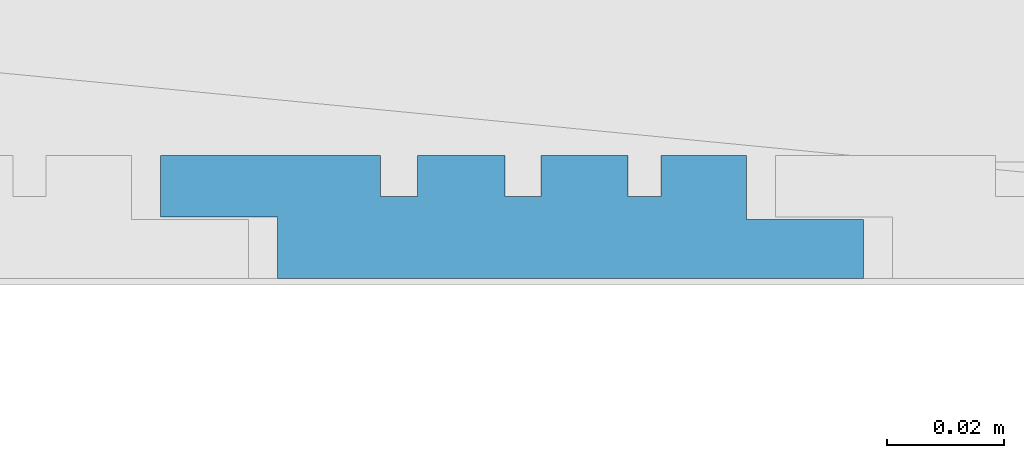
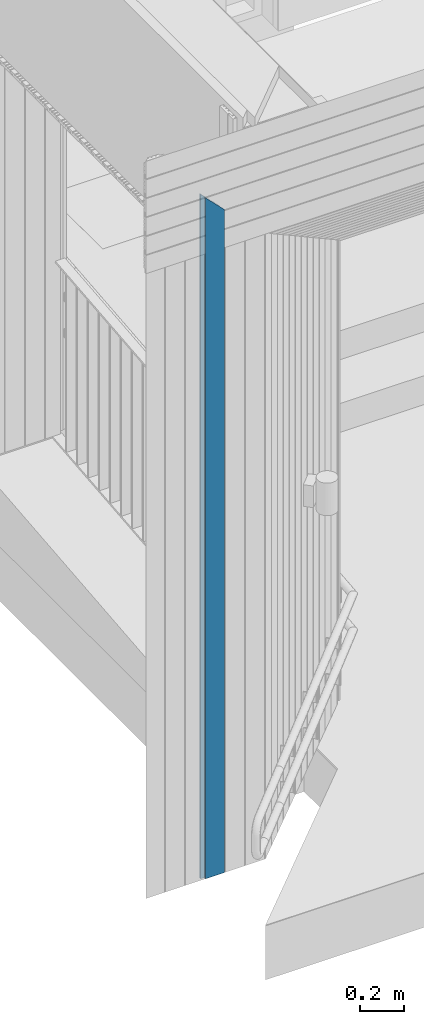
# One storey, part 99 of 418: 1 building element part, 1 element without a shape of its own.
"""IFC2X3 building model written with IfcOpenShell, lengths in millimetres."""

from ifc_helpers import new_model, entity, si_unit, converted_unit, derived_unit, money_unit, direction, frame, origin_with_axes, place, context, subcontext, project, spatial, polyline, outline, extrude, boolean, faceted_brep, material, type_object, element, aggregate, save


model = new_model("IFC2X3")

# Units and contexts
model_context = context("Model", 3, precision=0.01, world=origin_with_axes(), true_north=direction((0.0, 1.0)))
body_context = subcontext(model_context, "Body", "Model", "MODEL_VIEW")
ifc_project = project(units=[si_unit("LENGTHUNIT", "METRE", prefix="MILLI"), si_unit("AREAUNIT", "SQUARE_METRE"), si_unit("VOLUMEUNIT", "CUBIC_METRE"), converted_unit("PLANEANGLEUNIT", "DEGREE", entity("IfcPlaneAngleMeasure", 0.0174532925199), si_unit("PLANEANGLEUNIT", "RADIAN"), dimensions=[0, 0, 0, 0, 0, 0, 0]), si_unit("SOLIDANGLEUNIT", "STERADIAN"), money_unit("EUR"), converted_unit("TIMEUNIT", "Year", entity("IfcTimeMeasure", 31556926.0), si_unit("TIMEUNIT", "SECOND"), dimensions=[0, 0, 1, 0, 0, 0, 0]), si_unit("MASSUNIT", "GRAM", prefix="KILO"), si_unit("THERMODYNAMICTEMPERATUREUNIT", "DEGREE_CELSIUS"), si_unit("LUMINOUSINTENSITYUNIT", "LUMEN"), si_unit("ENERGYUNIT", "JOULE", prefix="MEGA"), derived_unit("THERMALCONDUCTANCEUNIT", [(si_unit("POWERUNIT", "WATT"), 1), (si_unit("LENGTHUNIT", "METRE"), -1), (si_unit("THERMODYNAMICTEMPERATUREUNIT", "KELVIN"), -1)]), derived_unit("SPECIFICHEATCAPACITYUNIT", [(si_unit("ENERGYUNIT", "JOULE"), 1), (si_unit("MASSUNIT", "GRAM", prefix="KILO"), -1), (si_unit("THERMODYNAMICTEMPERATUREUNIT", "KELVIN"), -1)]), derived_unit("MASSDENSITYUNIT", [(si_unit("MASSUNIT", "GRAM", prefix="KILO"), 1), (si_unit("VOLUMEUNIT", "CUBIC_METRE"), -1)])], contexts=[model_context])

# Site, building, storey
site_placement = place(None, origin_with_axes())
site = spatial("IfcSite", under=ifc_project, at=site_placement, Name="Paldiski mnt 245/1, Tallinn, Harjumaa", CompositionType="COMPLEX")
building_placement = place(site_placement, origin_with_axes())
building = spatial("IfcBuilding", under=site, at=building_placement, Name="RKAS Hoone üldnimetus (kasutust iseloomustav) -> IFC Project Manager -> SOLIBRI", CompositionType="ELEMENT")
storey_placement = place(building_placement, origin_with_axes())
storey = spatial("IfcBuildingStorey", under=building, at=storey_placement, Name="Esimene korrus", CompositionType="ELEMENT", Elevation=0.0)

# Proxy, building element part
building_element_proxy_type = type_object("IfcBuildingElementProxyType", Name="Laudis esiprofiil_01 21 x 622", PredefinedType="NOTDEFINED")
proxy_placement = place(storey_placement, frame((-45641.4622152, -18705.5141429, 0.0), z_axis=(0.0, 0.0, 1.0), x_axis=(0.0, 1.0, 0.0)))
proxy = element("IfcBuildingElementProxy", 1, at=proxy_placement, inside=storey, type_object=building_element_proxy_type, Name="Varikatus")
ifc_material = material(Name="Laudis 5072 Honka 45 horisontaalne raastas")
building_element_part_placement = place(proxy_placement, origin_with_axes())
building_element_part = element("IfcBuildingElementPart", 2, at=building_element_part_placement, material=ifc_material, Name="Laudis 5072 Honka 45 horisontaalne raastas", context=body_context, shape_type="CSG", body=[
    boolean("DIFFERENCE", boolean("DIFFERENCE", boolean("DIFFERENCE", boolean("DIFFERENCE", boolean("DIFFERENCE", boolean("DIFFERENCE", extrude(outline(polyline([(3.20348192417e-08, -310.971430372), (-10.5000010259, -310.971430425), (-10.5000005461, -290.971429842), (-20.9999998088, -290.971430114), (-21.0000010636, -328.497524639), (-14.0000005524, -328.497525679), (-14.0000003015, -334.860022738), (-20.99999981, -334.860022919), (-20.9999998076, -349.79914009), (-14.0000002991, -349.799139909), (-14.0000007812, -355.926080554), (-21.0000002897, -355.926080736), (-21.0000013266, -370.754573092), (-14.0000008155, -370.754574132), (-14.0000015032, -376.395242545), (-21.0000010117, -376.395242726), (-21.0000007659, -390.971429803), (-10.000001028, -390.971430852), (-10.0000002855, -410.971430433), (-7.63172636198e-07, -410.971430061), (3.20348192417e-08, -310.971430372)])), frame((0.0, 0.0, 0.0), z_axis=(0.0, 0.0, -1.0), x_axis=(-1.0, 0.0, 0.0)), (0.0, 0.0, -1.0), 4086.15997799), faceted_brep([(7.63172636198e-07, -515.971430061, 3569.02857112), (10.0000002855, -515.971430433, 3569.02857075), (10.0000002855, -515.971430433, 4086.15997799), (7.63172636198e-07, -515.971430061, 4086.15997799), (10.000001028, -495.971430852, 3589.02857033), (-3.20348192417e-08, -415.971430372, 3669.02857081), (10.5000010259, -415.971430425, 3669.02857076), (10.5000005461, -395.971429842, 3689.02857134), (20.9999998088, -395.971430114, 3689.02857107), (21.0000010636, -433.497524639, 3651.50247655), (14.0000005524, -433.497525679, 3651.50247551), (14.0000003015, -439.860022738, 3645.13997845), (20.99999981, -439.860022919, 3645.13997827), (20.9999998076, -454.79914009, 3630.20086109), (14.0000002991, -454.799139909, 3630.20086128), (14.0000007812, -460.926080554, 3624.07392063), (21.0000002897, -460.926080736, 3624.07392045), (21.0000013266, -475.754573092, 3609.24542809), (14.0000008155, -475.754574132, 3609.24542705), (14.0000015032, -481.395242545, 3603.60475864), (21.0000010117, -481.395242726, 3603.60475846), (21.0000007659, -495.971429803, 3589.02857138), (10.000001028, -495.971430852, 4086.15997799), (10.5000010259, -415.971430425, 4086.15997799), (-3.20348192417e-08, -415.971430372, 4086.15997799), (21.0000007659, -495.971429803, 4086.15997799), (21.0000010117, -481.395242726, 4086.15997799), (14.0000015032, -481.395242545, 4086.15997799), (14.0000008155, -475.754574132, 4086.15997799), (21.0000013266, -475.754573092, 4086.15997799), (21.0000002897, -460.926080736, 4086.15997799), (14.0000007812, -460.926080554, 4086.15997799), (14.0000002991, -454.799139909, 4086.15997799), (20.9999998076, -454.79914009, 4086.15997799), (20.99999981, -439.860022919, 4086.15997799), (14.0000003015, -439.860022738, 4086.15997799), (14.0000005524, -433.497525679, 4086.15997799), (21.0000010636, -433.497524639, 4086.15997799), (20.9999998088, -395.971430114, 4086.15997799), (10.5000005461, -395.971429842, 4086.15997799)], [[[0, 1, 2, 3]], [[4, 1, 0, 5, 6, 7, 8, 9, 10, 11, 12, 13, 14, 15, 16, 17, 18, 19, 20, 21]], [[1, 4, 22, 2]], [[23, 24, 3, 2, 22, 25, 26, 27, 28, 29, 30, 31, 32, 33, 34, 35, 36, 37, 38, 39]], [[5, 0, 3, 24]], [[6, 5, 24, 23]], [[7, 6, 23, 39]], [[8, 7, 39, 38]], [[9, 8, 38, 37]], [[10, 9, 37, 36]], [[11, 10, 36, 35]], [[12, 11, 35, 34]], [[13, 12, 34, 33]], [[14, 13, 33, 32]], [[15, 14, 32, 31]], [[16, 15, 31, 30]], [[17, 16, 30, 29]], [[18, 17, 29, 28]], [[19, 18, 28, 27]], [[20, 19, 27, 26]], [[21, 20, 26, 25]], [[4, 21, 25, 22]]])), faceted_brep([(7.63172636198e-07, -620.971430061, 3464.02857112), (10.0000002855, -620.971430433, 3464.02857075), (10.0000002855, -620.971430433, 4086.15997799), (7.63172636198e-07, -620.971430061, 4086.15997799), (10.000001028, -600.971430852, 3484.02857033), (-3.20348192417e-08, -520.971430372, 3564.02857081), (10.5000010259, -520.971430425, 3564.02857076), (10.5000005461, -500.971429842, 3584.02857134), (20.9999998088, -500.971430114, 3584.02857107), (21.0000010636, -538.497524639, 3546.50247655), (14.0000005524, -538.497525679, 3546.50247551), (14.0000003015, -544.860022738, 3540.13997845), (20.99999981, -544.860022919, 3540.13997827), (20.9999998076, -559.79914009, 3525.20086109), (14.0000002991, -559.799139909, 3525.20086128), (14.0000007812, -565.926080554, 3519.07392063), (21.0000002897, -565.926080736, 3519.07392045), (21.0000013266, -580.754573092, 3504.24542809), (14.0000008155, -580.754574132, 3504.24542705), (14.0000015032, -586.395242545, 3498.60475864), (21.0000010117, -586.395242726, 3498.60475846), (21.0000007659, -600.971429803, 3484.02857138), (10.000001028, -600.971430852, 4086.15997799), (10.5000010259, -520.971430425, 4086.15997799), (-3.20348192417e-08, -520.971430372, 4086.15997799), (21.0000007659, -600.971429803, 4086.15997799), (21.0000010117, -586.395242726, 4086.15997799), (14.0000015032, -586.395242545, 4086.15997799), (14.0000008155, -580.754574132, 4086.15997799), (21.0000013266, -580.754573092, 4086.15997799), (21.0000002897, -565.926080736, 4086.15997799), (14.0000007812, -565.926080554, 4086.15997799), (14.0000002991, -559.799139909, 4086.15997799), (20.9999998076, -559.79914009, 4086.15997799), (20.99999981, -544.860022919, 4086.15997799), (14.0000003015, -544.860022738, 4086.15997799), (14.0000005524, -538.497525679, 4086.15997799), (21.0000010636, -538.497524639, 4086.15997799), (20.9999998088, -500.971430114, 4086.15997799), (10.5000005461, -500.971429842, 4086.15997799)], [[[0, 1, 2, 3]], [[4, 1, 0, 5, 6, 7, 8, 9, 10, 11, 12, 13, 14, 15, 16, 17, 18, 19, 20, 21]], [[1, 4, 22, 2]], [[23, 24, 3, 2, 22, 25, 26, 27, 28, 29, 30, 31, 32, 33, 34, 35, 36, 37, 38, 39]], [[5, 0, 3, 24]], [[6, 5, 24, 23]], [[7, 6, 23, 39]], [[8, 7, 39, 38]], [[9, 8, 38, 37]], [[10, 9, 37, 36]], [[11, 10, 36, 35]], [[12, 11, 35, 34]], [[13, 12, 34, 33]], [[14, 13, 33, 32]], [[15, 14, 32, 31]], [[16, 15, 31, 30]], [[17, 16, 30, 29]], [[18, 17, 29, 28]], [[19, 18, 28, 27]], [[20, 19, 27, 26]], [[21, 20, 26, 25]], [[4, 21, 25, 22]]])), faceted_brep([(7.63172636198e-07, -305.971430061, 3779.02857112), (10.0000002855, -305.971430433, 3779.02857075), (10.0000002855, -305.971430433, 4086.15997799), (7.63172636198e-07, -305.971430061, 4086.15997799), (10.000001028, -285.971430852, 3799.02857033), (-3.20348192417e-08, -205.971430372, 3879.02857081), (10.5000010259, -205.971430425, 3879.02857076), (10.5000005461, -185.971429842, 3899.02857134), (20.9999998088, -185.971430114, 3899.02857107), (21.0000010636, -223.497524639, 3861.50247655), (14.0000005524, -223.497525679, 3861.50247551), (14.0000003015, -229.860022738, 3855.13997845), (20.99999981, -229.860022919, 3855.13997827), (20.9999998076, -244.79914009, 3840.20086109), (14.0000002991, -244.799139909, 3840.20086128), (14.0000007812, -250.926080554, 3834.07392063), (21.0000002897, -250.926080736, 3834.07392045), (21.0000013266, -265.754573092, 3819.24542809), (14.0000008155, -265.754574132, 3819.24542705), (14.0000015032, -271.395242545, 3813.60475864), (21.0000010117, -271.395242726, 3813.60475846), (21.0000007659, -285.971429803, 3799.02857138), (10.000001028, -285.971430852, 4086.15997799), (10.5000010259, -205.971430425, 4086.15997799), (-3.20348192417e-08, -205.971430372, 4086.15997799), (21.0000007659, -285.971429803, 4086.15997799), (21.0000010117, -271.395242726, 4086.15997799), (14.0000015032, -271.395242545, 4086.15997799), (14.0000008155, -265.754574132, 4086.15997799), (21.0000013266, -265.754573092, 4086.15997799), (21.0000002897, -250.926080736, 4086.15997799), (14.0000007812, -250.926080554, 4086.15997799), (14.0000002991, -244.799139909, 4086.15997799), (20.9999998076, -244.79914009, 4086.15997799), (20.99999981, -229.860022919, 4086.15997799), (14.0000003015, -229.860022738, 4086.15997799), (14.0000005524, -223.497525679, 4086.15997799), (21.0000010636, -223.497524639, 4086.15997799), (20.9999998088, -185.971430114, 4086.15997799), (10.5000005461, -185.971429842, 4086.15997799)], [[[0, 1, 2, 3]], [[4, 1, 0, 5, 6, 7, 8, 9, 10, 11, 12, 13, 14, 15, 16, 17, 18, 19, 20, 21]], [[1, 4, 22, 2]], [[23, 24, 3, 2, 22, 25, 26, 27, 28, 29, 30, 31, 32, 33, 34, 35, 36, 37, 38, 39]], [[5, 0, 3, 24]], [[6, 5, 24, 23]], [[7, 6, 23, 39]], [[8, 7, 39, 38]], [[9, 8, 38, 37]], [[10, 9, 37, 36]], [[11, 10, 36, 35]], [[12, 11, 35, 34]], [[13, 12, 34, 33]], [[14, 13, 33, 32]], [[15, 14, 32, 31]], [[16, 15, 31, 30]], [[17, 16, 30, 29]], [[18, 17, 29, 28]], [[19, 18, 28, 27]], [[20, 19, 27, 26]], [[21, 20, 26, 25]], [[4, 21, 25, 22]]])), faceted_brep([(7.63172636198e-07, -410.971430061, 3674.02857112), (10.0000002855, -410.971430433, 3674.02857075), (10.0000002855, -410.971430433, 4086.15997799), (7.63172636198e-07, -410.971430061, 4086.15997799), (10.000001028, -390.971430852, 3694.02857033), (-3.20348192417e-08, -310.971430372, 3774.02857081), (10.5000010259, -310.971430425, 3774.02857076), (10.5000005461, -290.971429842, 3794.02857134), (20.9999998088, -290.971430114, 3794.02857107), (21.0000010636, -328.497524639, 3756.50247655), (14.0000005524, -328.497525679, 3756.50247551), (14.0000003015, -334.860022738, 3750.13997845), (20.99999981, -334.860022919, 3750.13997827), (20.9999998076, -349.79914009, 3735.20086109), (14.0000002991, -349.799139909, 3735.20086128), (14.0000007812, -355.926080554, 3729.07392063), (21.0000002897, -355.926080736, 3729.07392045), (21.0000013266, -370.754573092, 3714.24542809), (14.0000008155, -370.754574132, 3714.24542705), (14.0000015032, -376.395242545, 3708.60475864), (21.0000010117, -376.395242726, 3708.60475846), (21.0000007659, -390.971429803, 3694.02857138), (10.000001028, -390.971430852, 4086.15997799), (10.5000010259, -310.971430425, 4086.15997799), (-3.20348192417e-08, -310.971430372, 4086.15997799), (21.0000007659, -390.971429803, 4086.15997799), (21.0000010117, -376.395242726, 4086.15997799), (14.0000015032, -376.395242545, 4086.15997799), (14.0000008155, -370.754574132, 4086.15997799), (21.0000013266, -370.754573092, 4086.15997799), (21.0000002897, -355.926080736, 4086.15997799), (14.0000007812, -355.926080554, 4086.15997799), (14.0000002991, -349.799139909, 4086.15997799), (20.9999998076, -349.79914009, 4086.15997799), (20.99999981, -334.860022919, 4086.15997799), (14.0000003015, -334.860022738, 4086.15997799), (14.0000005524, -328.497525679, 4086.15997799), (21.0000010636, -328.497524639, 4086.15997799), (20.9999998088, -290.971430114, 4086.15997799), (10.5000005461, -290.971429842, 4086.15997799)], [[[0, 1, 2, 3]], [[4, 1, 0, 5, 6, 7, 8, 9, 10, 11, 12, 13, 14, 15, 16, 17, 18, 19, 20, 21]], [[1, 4, 22, 2]], [[23, 24, 3, 2, 22, 25, 26, 27, 28, 29, 30, 31, 32, 33, 34, 35, 36, 37, 38, 39]], [[5, 0, 3, 24]], [[6, 5, 24, 23]], [[7, 6, 23, 39]], [[8, 7, 39, 38]], [[9, 8, 38, 37]], [[10, 9, 37, 36]], [[11, 10, 36, 35]], [[12, 11, 35, 34]], [[13, 12, 34, 33]], [[14, 13, 33, 32]], [[15, 14, 32, 31]], [[16, 15, 31, 30]], [[17, 16, 30, 29]], [[18, 17, 29, 28]], [[19, 18, 28, 27]], [[20, 19, 27, 26]], [[21, 20, 26, 25]], [[4, 21, 25, 22]]])), faceted_brep([(1.4387921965e-06, -95.9714304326, 3989.02857075), (10.0000000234, -95.9714304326, 3989.02857075), (10.0000000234, -95.9714304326, 4086.15997799), (1.4387921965e-06, -95.9714304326, 4086.15997799), (10.0000014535, -75.9714304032, 4009.02857078), (-8.28137558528e-09, 1.13997680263, 4086.13997799), (14.0000008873, -12.860024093, 4072.13997709), (14.0000008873, -19.8600231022, 4065.13997808), (20.9999998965, -19.8600231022, 4065.13997808), (20.9999998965, -34.7991407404, 4050.20086044), (14.0000008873, -34.7991393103, 4050.20086187), (14.0000008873, -40.9260801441, 4044.07392104), (20.9999998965, -40.9260801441, 4044.07392104), (21.0000013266, -55.7545733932, 4029.24542779), (14.0000008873, -55.7545748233, 4029.24542636), (14.0000008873, -61.3952431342, 4023.60475805), (21.0000013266, -61.3952431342, 4023.60475805), (21.0000013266, -75.9714304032, 4009.02857078), (10.0000014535, -75.9714304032, 4086.15997799), (14.0000008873, -55.7545748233, 4086.15997799), (21.0000013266, -55.7545733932, 4086.15997799), (20.9999998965, -40.9260801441, 4086.15997799), (14.0000008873, -40.9260801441, 4086.15997799), (14.0000008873, -34.7991393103, 4086.15997799), (20.9999998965, -34.7991407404, 4086.15997799), (20.9999998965, -19.8600231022, 4086.15997799), (14.0000008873, -19.8600231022, 4086.15997799), (14.0000008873, -12.860024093, 4086.15997799), (-8.28137558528e-09, 1.13997680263, 4086.15997799), (21.0000013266, -75.9714304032, 4086.15997799), (21.0000013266, -61.3952431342, 4086.15997799), (14.0000008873, -61.3952431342, 4086.15997799)], [[[0, 1, 2, 3]], [[4, 1, 0, 5, 6, 7, 8, 9, 10, 11, 12, 13, 14, 15, 16, 17]], [[1, 4, 18, 2]], [[19, 20, 21, 22, 23, 24, 25, 26, 27, 28, 3, 2, 18, 29, 30, 31]], [[5, 0, 3, 28]], [[6, 5, 28, 27]], [[7, 6, 27, 26]], [[8, 7, 26, 25]], [[9, 8, 25, 24]], [[10, 9, 24, 23]], [[11, 10, 23, 22]], [[12, 11, 22, 21]], [[13, 12, 21, 20]], [[14, 13, 20, 19]], [[15, 14, 19, 31]], [[16, 15, 31, 30]], [[17, 16, 30, 29]], [[4, 17, 29, 18]]])), faceted_brep([(7.63172636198e-07, -200.971430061, 3884.02857112), (10.0000002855, -200.971430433, 3884.02857075), (10.0000002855, -200.971430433, 4086.15997799), (7.63172636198e-07, -200.971430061, 4086.15997799), (10.000001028, -180.971430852, 3904.02857033), (-3.20348192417e-08, -100.971430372, 3984.02857081), (10.5000010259, -100.971430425, 3984.02857076), (10.5000005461, -80.9714298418, 4004.02857134), (20.9999998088, -80.9714301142, 4004.02857107), (21.0000010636, -118.497524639, 3966.50247655), (14.0000005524, -118.497525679, 3966.50247551), (14.0000003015, -124.860022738, 3960.13997845), (20.99999981, -124.860022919, 3960.13997827), (20.9999998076, -139.79914009, 3945.20086109), (14.0000002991, -139.799139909, 3945.20086128), (14.0000007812, -145.926080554, 3939.07392063), (21.0000002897, -145.926080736, 3939.07392045), (21.0000013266, -160.754573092, 3924.24542809), (14.0000008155, -160.754574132, 3924.24542705), (14.0000015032, -166.395242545, 3918.60475864), (21.0000010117, -166.395242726, 3918.60475846), (21.0000007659, -180.971429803, 3904.02857138), (10.000001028, -180.971430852, 4086.15997799), (10.5000010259, -100.971430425, 4086.15997799), (-3.20348192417e-08, -100.971430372, 4086.15997799), (21.0000007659, -180.971429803, 4086.15997799), (21.0000010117, -166.395242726, 4086.15997799), (14.0000015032, -166.395242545, 4086.15997799), (14.0000008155, -160.754574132, 4086.15997799), (21.0000013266, -160.754573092, 4086.15997799), (21.0000002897, -145.926080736, 4086.15997799), (14.0000007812, -145.926080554, 4086.15997799), (14.0000002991, -139.799139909, 4086.15997799), (20.9999998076, -139.79914009, 4086.15997799), (20.99999981, -124.860022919, 4086.15997799), (14.0000003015, -124.860022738, 4086.15997799), (14.0000005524, -118.497525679, 4086.15997799), (21.0000010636, -118.497524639, 4086.15997799), (20.9999998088, -80.9714301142, 4086.15997799), (10.5000005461, -80.9714298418, 4086.15997799)], [[[0, 1, 2, 3]], [[4, 1, 0, 5, 6, 7, 8, 9, 10, 11, 12, 13, 14, 15, 16, 17, 18, 19, 20, 21]], [[1, 4, 22, 2]], [[23, 24, 3, 2, 22, 25, 26, 27, 28, 29, 30, 31, 32, 33, 34, 35, 36, 37, 38, 39]], [[5, 0, 3, 24]], [[6, 5, 24, 23]], [[7, 6, 23, 39]], [[8, 7, 39, 38]], [[9, 8, 38, 37]], [[10, 9, 37, 36]], [[11, 10, 36, 35]], [[12, 11, 35, 34]], [[13, 12, 34, 33]], [[14, 13, 33, 32]], [[15, 14, 32, 31]], [[16, 15, 31, 30]], [[17, 16, 30, 29]], [[18, 17, 29, 28]], [[19, 18, 28, 27]], [[20, 19, 27, 26]], [[21, 20, 26, 25]], [[4, 21, 25, 22]]])),
])
aggregate(proxy, [building_element_part])

save(model, "model.ifc")
